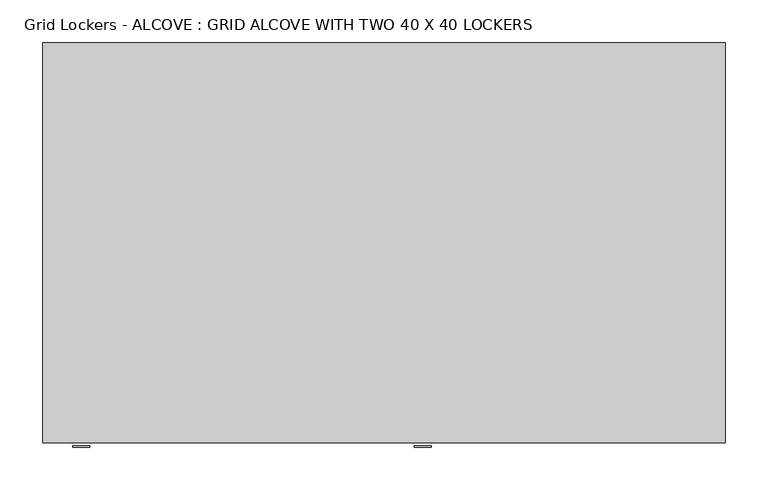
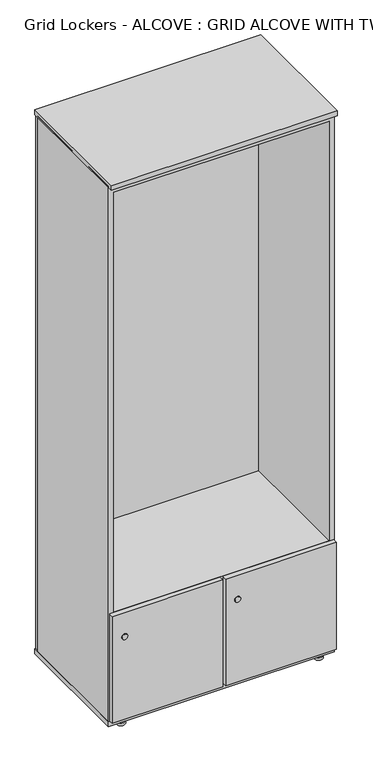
"""IFC4 building model written with IfcOpenShell, lengths in millimetres: furniture geometry, Grid Lockers - ALCOVE : GRID ALCOVE WITH TWO 40 X 40 LOCKERS."""

from ifc_helpers import new_model, si_unit, point, frame, frame_2d, origin, origin_with_axes, place, context, project, spatial, polyline, circle_curve, trimmed, segment, composite_curve, outline, extrude, source, transform, mapped, element, save


def grid_lockers_alcove_grid_alcove_with_two_40_x_40_lockers_40229bef(model_context):
    return source(origin(), model_context, "Body", "SweptSolid", [
        extrude(outline(composite_curve([segment(trimmed(circle_curve(frame_2d((344.6955358, 445.2953222)), 10.0), [point((344.6955358, 435.2953222))], [point((344.6955358, 455.2953222))], False, "CARTESIAN"), True, "CONTINUOUS"), segment(trimmed(circle_curve(frame_2d((344.6955358, 445.2953222)), 10.0), [point((344.6955358, 455.2953222))], [point((344.6955358, 435.2953222))], False, "CARTESIAN"), True, "CONTINUOUS")], self_intersect=False)), frame((0.0, -473.6089747, 0.0), z_axis=(0.0, 1.0, 0.0), x_axis=(0.0, 0.0, 1.0)), (0.0, 0.0, 1.0), 1.6089747),
        extrude(outline(composite_curve([segment(trimmed(circle_curve(frame_2d((344.6955358, 45.2953222)), 10.0), [point((344.6955358, 35.2953222))], [point((344.6955358, 55.2953222))], False, "CARTESIAN"), True, "CONTINUOUS"), segment(trimmed(circle_curve(frame_2d((344.6955358, 45.2953222)), 10.0), [point((344.6955358, 55.2953222))], [point((344.6955358, 35.2953222))], False, "CARTESIAN"), True, "CONTINUOUS")], self_intersect=False)), frame((0.0, -473.6089747, 0.0), z_axis=(0.0, 1.0, 0.0), x_axis=(0.0, 0.0, 1.0)), (0.0, 0.0, 1.0), 1.6089747),
        extrude(outline(polyline([(782.0, -450.6089747), (18.0, -450.6089747), (18.0, -18.0), (782.0, -18.0), (782.0, -450.6089747)])), frame((0.0, 0.0, 414.0), z_axis=(0.0, 0.0, 1.0), x_axis=(1.0, 0.0, 0.0)), (0.0, 0.0, 1.0), 18.0),
        extrude(outline(composite_curve([segment(trimmed(circle_curve(frame_2d((750.0, -50.0)), 15.0), [point((735.0, -50.0))], [point((765.0, -50.0))], False, "CARTESIAN"), True, "CONTINUOUS"), segment(trimmed(circle_curve(frame_2d((750.0, -50.0)), 15.0), [point((765.0, -50.0))], [point((735.0, -50.0))], False, "CARTESIAN"), True, "CONTINUOUS")], self_intersect=False)), origin_with_axes(), (0.0, 0.0, 1.0), 10.0),
        extrude(outline(composite_curve([segment(trimmed(circle_curve(frame_2d((50.0, -50.0)), 15.0), [point((35.0, -50.0))], [point((65.0, -50.0))], False, "CARTESIAN"), True, "CONTINUOUS"), segment(trimmed(circle_curve(frame_2d((50.0, -50.0)), 15.0), [point((65.0, -50.0))], [point((35.0, -50.0))], False, "CARTESIAN"), True, "CONTINUOUS")], self_intersect=False)), origin_with_axes(), (0.0, 0.0, 1.0), 10.0),
        extrude(outline(composite_curve([segment(trimmed(circle_curve(frame_2d((50.0, -440.0)), 15.0), [point((35.0, -440.0))], [point((65.0, -440.0))], False, "CARTESIAN"), True, "CONTINUOUS"), segment(trimmed(circle_curve(frame_2d((50.0, -440.0)), 15.0), [point((65.0, -440.0))], [point((35.0, -440.0))], False, "CARTESIAN"), True, "CONTINUOUS")], self_intersect=False)), origin_with_axes(), (0.0, 0.0, 1.0), 10.0),
        extrude(outline(composite_curve([segment(trimmed(circle_curve(frame_2d((750.0, -440.0)), 15.0), [point((735.0, -440.0))], [point((765.0, -440.0))], False, "CARTESIAN"), True, "CONTINUOUS"), segment(trimmed(circle_curve(frame_2d((750.0, -440.0)), 15.0), [point((765.0, -440.0))], [point((735.0, -440.0))], False, "CARTESIAN"), True, "CONTINUOUS")], self_intersect=False)), origin_with_axes(), (0.0, 0.0, 1.0), 10.0),
        extrude(outline(polyline([(800.0, -450.6089747), (0.0, -450.6089747), (0.0, 0.0), (800.0, 0.0), (800.0, -450.6089747)])), frame((0.0, 0.0, 10.0), z_axis=(0.0, 0.0, 1.0), x_axis=(1.0, 0.0, 0.0)), (0.0, 0.0, 1.0), 18.0),
        extrude(outline(polyline([(800.0, -468.6089747), (0.0, -468.6089747), (0.0, 0.0), (800.0, 0.0), (800.0, -468.6089747)])), frame((0.0, 0.0, 2029.0), z_axis=(0.0, 0.0, 1.0), x_axis=(1.0, 0.0, 0.0)), (0.0, 0.0, 1.0), 18.0),
        extrude(outline(polyline([(2034.0, 800.0), (2034.0, 0.0), (28.0, 0.0), (28.0, 18.0), (2004.0, 18.0), (2004.0, 782.0), (28.0, 782.0), (28.0, 800.0), (2034.0, 800.0)])), frame((0.0, -450.6089747, 0.0), z_axis=(0.0, 1.0, 0.0), x_axis=(0.0, 0.0, 1.0)), (0.0, 0.0, 1.0), 432.6089747),
        extrude(outline(polyline([(797.0, 0.0), (797.0, -18.0), (3.0, -18.0), (3.0, 0.0), (797.0, 0.0)])), frame((0.0, 0.0, 18.0), z_axis=(0.0, 0.0, 1.0), x_axis=(1.0, 0.0, 0.0)), (0.0, 0.0, 1.0), 2005.0),
        extrude(outline(polyline([(395.0, -468.6089747), (3.0, -468.6089747), (3.0, -450.6089747), (395.0, -450.6089747), (395.0, -468.6089747)])), frame((0.0, 0.0, 32.0), z_axis=(0.0, 0.0, 1.0), x_axis=(1.0, 0.0, 0.0)), (0.0, 0.0, 1.0), 400.0),
        extrude(outline(polyline([(797.0, -468.6089747), (405.0, -468.6089747), (405.0, -450.6089747), (797.0, -450.6089747), (797.0, -468.6089747)])), frame((0.0, 0.0, 32.0), z_axis=(0.0, 0.0, 1.0), x_axis=(1.0, 0.0, 0.0)), (0.0, 0.0, 1.0), 400.0),
    ])


if __name__ == "__main__":
    model = new_model("IFC4")
    model_context = context("Model", 3, world=origin())
    ifc_project = project(units=[si_unit("LENGTHUNIT", "METRE", prefix="MILLI")], contexts=[model_context])
    site = spatial("IfcSite", under=ifc_project)
    building = spatial("IfcBuilding", under=site)
    placement = place(None, origin())
    grid_lockers_alcove_grid_alcove_with_two_40_x_40_lockers_shape = grid_lockers_alcove_grid_alcove_with_two_40_x_40_lockers_40229bef(model_context)
    element("IfcFurniture", 1, ObjectType="Grid Lockers - ALCOVE : GRID ALCOVE WITH TWO 40 X 40 LOCKERS", at=placement, inside=building, context=model_context, shape_type="MappedRepresentation", body=[
        mapped(grid_lockers_alcove_grid_alcove_with_two_40_x_40_lockers_shape, transform((0.0, 0.0, 0.0), x_axis=(1.0, 0.0, 0.0), y_axis=(0.0, 1.0, 0.0), z_axis=(0.0, 0.0, 1.0))),
    ])
    save(model, "model.ifc")
